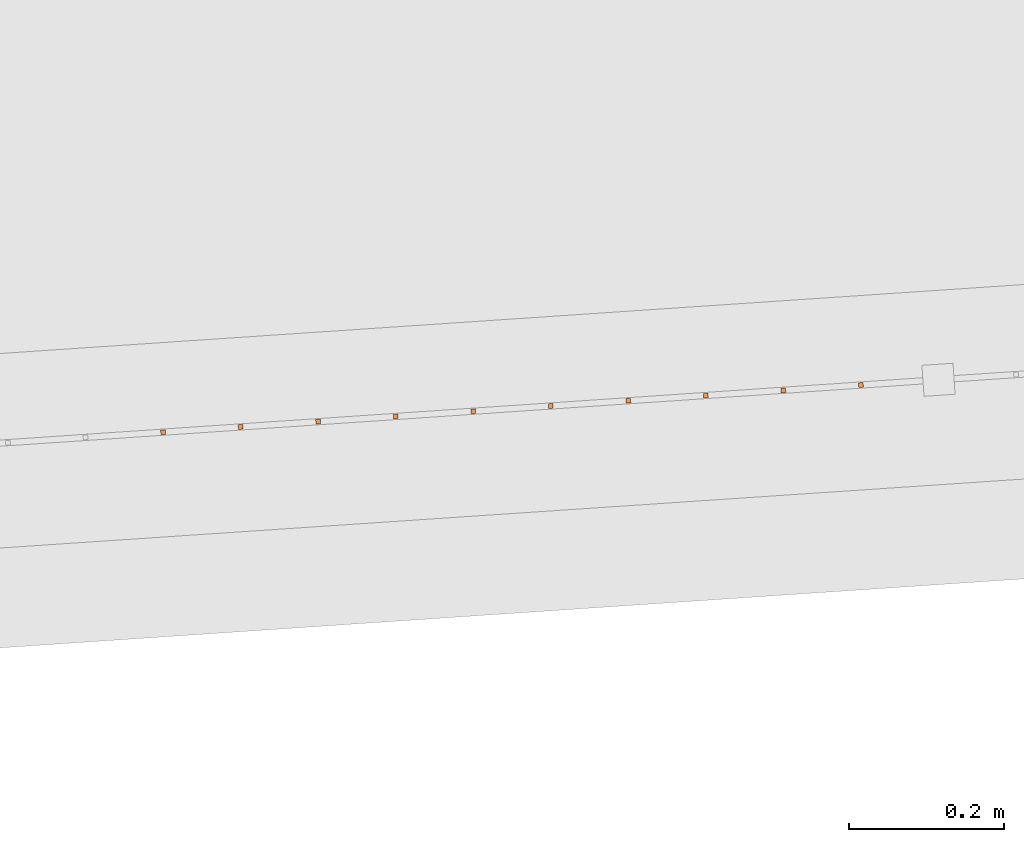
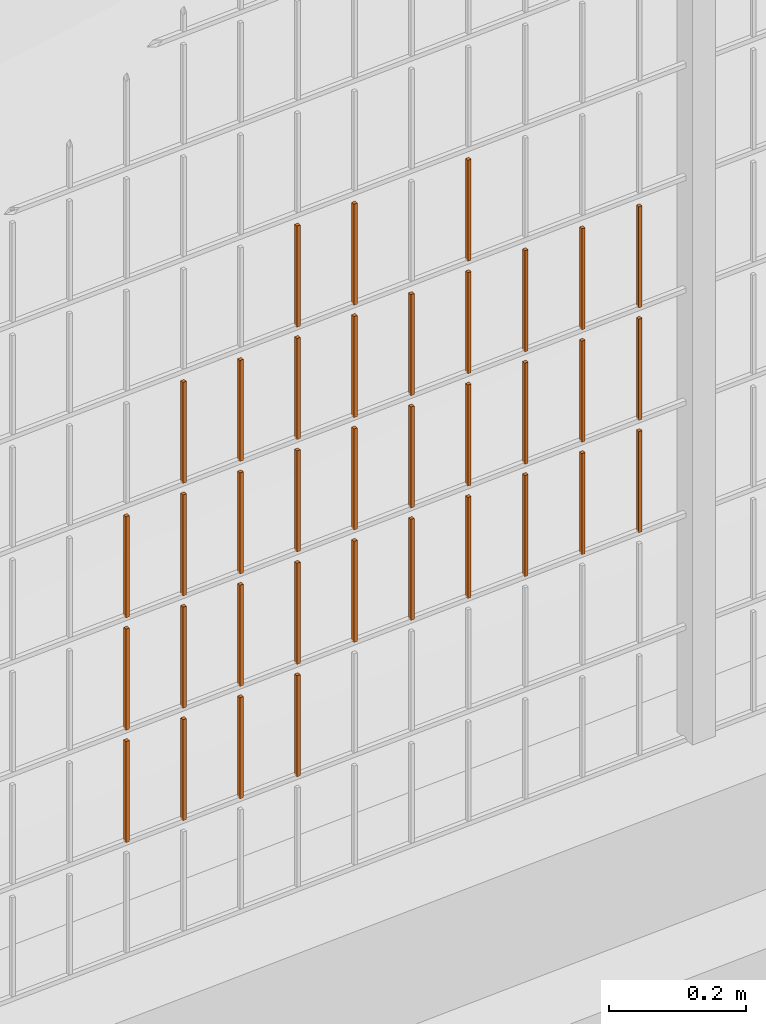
# One storey, part 109 of 1809: 36 proxies, 1 element without a shape of its own.
"""IFC2X3 building model written with IfcOpenShell, lengths in millimetres."""

from ifc_helpers import new_model, entity, si_unit, converted_unit, derived_unit, money_unit, direction, frame, origin_with_axes, place, context, subcontext, project, spatial, faceted_brep, source, transform, mapped, material, type_object, element, aggregate, save


model = new_model("IFC2X3")

# Units and contexts
model_context = context("Model", 3, precision=0.01, world=origin_with_axes(), true_north=direction((0.0, 1.0)))
body_context = subcontext(model_context, "Body", "Model", "MODEL_VIEW")
ifc_project = project(units=[si_unit("LENGTHUNIT", "METRE", prefix="MILLI"), si_unit("AREAUNIT", "SQUARE_METRE"), si_unit("VOLUMEUNIT", "CUBIC_METRE"), converted_unit("PLANEANGLEUNIT", "DEGREE", entity("IfcPlaneAngleMeasure", 0.0174532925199), si_unit("PLANEANGLEUNIT", "RADIAN"), dimensions=[0, 0, 0, 0, 0, 0, 0]), si_unit("SOLIDANGLEUNIT", "STERADIAN"), money_unit("EUR"), converted_unit("TIMEUNIT", "Year", entity("IfcTimeMeasure", 31556926.0), si_unit("TIMEUNIT", "SECOND"), dimensions=[0, 0, 1, 0, 0, 0, 0]), si_unit("MASSUNIT", "GRAM", prefix="KILO"), si_unit("THERMODYNAMICTEMPERATUREUNIT", "DEGREE_CELSIUS"), si_unit("LUMINOUSINTENSITYUNIT", "LUMEN"), si_unit("ENERGYUNIT", "JOULE", prefix="MEGA"), derived_unit("THERMALCONDUCTANCEUNIT", [(si_unit("POWERUNIT", "WATT"), 1), (si_unit("LENGTHUNIT", "METRE"), -1), (si_unit("THERMODYNAMICTEMPERATUREUNIT", "KELVIN"), -1)]), derived_unit("SPECIFICHEATCAPACITYUNIT", [(si_unit("ENERGYUNIT", "JOULE"), 1), (si_unit("MASSUNIT", "GRAM", prefix="KILO"), -1), (si_unit("THERMODYNAMICTEMPERATUREUNIT", "KELVIN"), -1)]), derived_unit("MASSDENSITYUNIT", [(si_unit("MASSUNIT", "GRAM", prefix="KILO"), 1), (si_unit("VOLUMEUNIT", "CUBIC_METRE"), -1)])], contexts=[model_context])

# Site, building, storey
site_placement = place(None, origin_with_axes())
site = spatial("IfcSite", under=ifc_project, at=site_placement, Name="Politse- ja Piirivalveameti ning Päästeameti ühishoone", CompositionType="ELEMENT")
building_placement = place(site_placement, origin_with_axes())
building = spatial("IfcBuilding", under=site, at=building_placement, Name="Politse- ja Piirivalveameti ning Päästeameti ühishoone", CompositionType="ELEMENT")
storey_placement = place(building_placement, origin_with_axes())
storey = spatial("IfcBuildingStorey", under=building, at=storey_placement, Name="Esimene korrus", CompositionType="ELEMENT", Elevation=0.0)

# Proxies
building_element_proxy_type_1 = type_object("IfcBuildingElementProxyType", Name="Railing Type", PredefinedType="NOTDEFINED")
proxy_1_placement = place(storey_placement, frame((89252.001212, -29183.4766571, 203.661247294), z_axis=(0.0, 0.0, 1.0), x_axis=(1.0, 0.0, 0.0)))
proxy_1 = element("IfcBuildingElementProxy", 1, at=proxy_1_placement, inside=storey, type_object=building_element_proxy_type_1, Name="PIIRDEAED")
ifc_material = material(Name="ET-03_Raud")
building_element_proxy_type_2 = type_object("IfcBuildingElementProxyType", Name="IfcBuildingElementProxy", PredefinedType="NOTDEFINED")
shared_shape_1 = source(origin_with_axes(), body_context, "Body", "Brep", [
    faceted_brep([(3.0, 3.0, -0.000752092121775), (-3.0, 3.0, -0.000752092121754), (-3.0, 3.0, 179.99926046), (3.0, 3.0, 179.99926046), (3.0, -3.0, 0.000752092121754), (-3.0, -3.0, 0.000752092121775), (-3.0, -3.0, 180.000764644), (3.0, -3.0, 180.000764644)], [[[0, 1, 2, 3]], [[0, 4, 5, 1]], [[1, 5, 6, 2]], [[3, 2, 6, 7]], [[4, 0, 3, 7]], [[5, 4, 7, 6]]]),
])
proxy_2_placement = place(proxy_1_placement, frame((-92815.1946069, -23567.0908854, 603.912839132), z_axis=(0.0, 0.0, 1.0), x_axis=(1.0, 0.0, 0.0)))
proxy_2 = element("IfcBuildingElementProxy", 2, at=proxy_2_placement, type_object=building_element_proxy_type_2, material=ifc_material, Name="BALUSTER - 001", context=body_context, shape_type="MappedRepresentation", body=[
    mapped(shared_shape_1, transform((0.0, 0.0, 0.0), x_axis=(-0.0673926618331, 0.997726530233, 0.0), y_axis=(-0.997726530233, -0.0673926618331, 0.0), z_axis=(0.0, 0.0, 1.0))),
])
shared_shape_2 = source(origin_with_axes(), body_context, "Body", "Brep", [
    faceted_brep([(3.0, 3.0, -0.000752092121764), (-3.0, 3.0, -0.000752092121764), (-3.0, 3.0, 179.99926046), (3.0, 3.0, 179.99926046), (3.0, -3.0, 0.000752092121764), (-3.0, -3.0, 0.000752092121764), (-3.0, -3.0, 180.000764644), (3.0, -3.0, 180.000764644)], [[[0, 1, 2, 3]], [[0, 4, 5, 1]], [[1, 5, 6, 2]], [[3, 2, 6, 7]], [[4, 0, 3, 7]], [[5, 4, 7, 6]]]),
])
proxy_3_placement = place(proxy_1_placement, frame((-93014.7399129, -23580.5694178, 403.862699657), z_axis=(0.0, 0.0, 1.0), x_axis=(1.0, 0.0, 0.0)))
proxy_3 = element("IfcBuildingElementProxy", 3, at=proxy_3_placement, type_object=building_element_proxy_type_2, material=ifc_material, Name="BALUSTER - 001", context=body_context, shape_type="MappedRepresentation", body=[
    mapped(shared_shape_2, transform((0.0, 0.0, 0.0), x_axis=(-0.0673926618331, 0.997726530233, 0.0), y_axis=(-0.997726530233, -0.0673926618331, 0.0), z_axis=(0.0, 0.0, 1.0))),
])
proxy_4_placement = place(proxy_1_placement, frame((-93014.7399129, -23580.5694178, 603.862699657), z_axis=(0.0, 0.0, 1.0), x_axis=(1.0, 0.0, 0.0)))
proxy_4 = element("IfcBuildingElementProxy", 4, at=proxy_4_placement, type_object=building_element_proxy_type_2, material=ifc_material, Name="BALUSTER - 001", context=body_context, shape_type="MappedRepresentation", body=[
    mapped(shared_shape_2, transform((0.0, 0.0, 0.0), x_axis=(-0.0673926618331, 0.997726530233, 0.0), y_axis=(-0.997726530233, -0.0673926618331, 0.0), z_axis=(0.0, 0.0, 1.0))),
])
shared_shape_3 = source(origin_with_axes(), body_context, "Body", "Brep", [
    faceted_brep([(3.0, 3.0, -0.000752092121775), (-3.0, 3.0, -0.000752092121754), (-3.0, 3.0, 179.99926046), (3.0, 3.0, 179.99926046), (3.0, -3.0, 0.000752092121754), (-3.0, -3.0, 0.000752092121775), (-3.0, -3.0, 180.000764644), (3.0, -3.0, 180.000764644)], [[[0, 1, 2, 3]], [[0, 4, 5, 1]], [[1, 5, 6, 2]], [[3, 2, 6, 7]], [[4, 0, 3, 7]], [[5, 4, 7, 6]]]),
])
proxy_5_placement = place(proxy_1_placement, frame((-92815.1946069, -23567.0908854, 403.912839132), z_axis=(0.0, 0.0, 1.0), x_axis=(1.0, 0.0, 0.0)))
proxy_5 = element("IfcBuildingElementProxy", 5, at=proxy_5_placement, type_object=building_element_proxy_type_2, material=ifc_material, Name="BALUSTER - 001", context=body_context, shape_type="MappedRepresentation", body=[
    mapped(shared_shape_3, transform((0.0, 0.0, 0.0), x_axis=(-0.0673926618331, 0.997726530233, 0.0), y_axis=(-0.997726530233, -0.0673926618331, 0.0), z_axis=(0.0, 0.0, 1.0))),
])
shared_shape_4 = source(origin_with_axes(), body_context, "Body", "Brep", [
    faceted_brep([(3.0, 3.0, -0.000752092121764), (-3.0, 3.0, -0.000752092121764), (-3.0, 3.0, 179.99926046), (3.0, 3.0, 179.99926046), (3.0, -3.0, 0.000752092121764), (-3.0, -3.0, 0.000752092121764), (-3.0, -3.0, 180.000764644), (3.0, -3.0, 180.000764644)], [[[0, 1, 2, 3]], [[0, 4, 5, 1]], [[1, 5, 6, 2]], [[3, 2, 6, 7]], [[4, 0, 3, 7]], [[5, 4, 7, 6]]]),
])
proxy_6_placement = place(proxy_1_placement, frame((-93014.7399129, -23580.5694178, 203.862699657), z_axis=(0.0, 0.0, 1.0), x_axis=(1.0, 0.0, 0.0)))
proxy_6 = element("IfcBuildingElementProxy", 6, at=proxy_6_placement, type_object=building_element_proxy_type_2, material=ifc_material, Name="BALUSTER - 001", context=body_context, shape_type="MappedRepresentation", body=[
    mapped(shared_shape_4, transform((0.0, 0.0, 0.0), x_axis=(-0.0673926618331, 0.997726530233, 0.0), y_axis=(-0.997726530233, -0.0673926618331, 0.0), z_axis=(0.0, 0.0, 1.0))),
])
shared_shape_5 = source(origin_with_axes(), body_context, "Body", "Brep", [
    faceted_brep([(3.0, 3.0, -0.000752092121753), (-3.0, 3.0, -0.000752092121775), (-3.0, 3.0, 179.99926046), (3.0, 3.0, 179.99926046), (3.0, -3.0, 0.000752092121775), (-3.0, -3.0, 0.000752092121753), (-3.0, -3.0, 180.000764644), (3.0, -3.0, 180.000764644)], [[[0, 1, 2, 3]], [[0, 4, 5, 1]], [[1, 5, 6, 2]], [[3, 2, 6, 7]], [[4, 0, 3, 7]], [[5, 4, 7, 6]]]),
])
proxy_7_placement = place(proxy_1_placement, frame((-92715.4219538, -23560.3516192, 603.937908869), z_axis=(0.0, 0.0, 1.0), x_axis=(1.0, 0.0, 0.0)))
proxy_7 = element("IfcBuildingElementProxy", 7, at=proxy_7_placement, type_object=building_element_proxy_type_2, material=ifc_material, Name="BALUSTER - 001", context=body_context, shape_type="MappedRepresentation", body=[
    mapped(shared_shape_5, transform((0.0, 0.0, 0.0), x_axis=(-0.0673926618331, 0.997726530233, 0.0), y_axis=(-0.997726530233, -0.0673926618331, 0.0), z_axis=(0.0, 0.0, 1.0))),
])
proxy_8_placement = place(proxy_1_placement, frame((-92715.4219538, -23560.3516192, 803.937908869), z_axis=(0.0, 0.0, 1.0), x_axis=(1.0, 0.0, 0.0)))
proxy_8 = element("IfcBuildingElementProxy", 8, at=proxy_8_placement, type_object=building_element_proxy_type_2, material=ifc_material, Name="BALUSTER - 001", context=body_context, shape_type="MappedRepresentation", body=[
    mapped(shared_shape_5, transform((0.0, 0.0, 0.0), x_axis=(-0.0673926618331, 0.997726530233, 0.0), y_axis=(-0.997726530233, -0.0673926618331, 0.0), z_axis=(0.0, 0.0, 1.0))),
])
shared_shape_6 = source(origin_with_axes(), body_context, "Body", "Brep", [
    faceted_brep([(3.0, 3.0, -0.000752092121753), (-3.0, 3.0, -0.000752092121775), (-3.0, 3.0, 179.99926046), (3.0, 3.0, 179.99926046), (3.0, -3.0, 0.000752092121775), (-3.0, -3.0, 0.000752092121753), (-3.0, -3.0, 180.000764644), (3.0, -3.0, 180.000764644)], [[[0, 1, 2, 3]], [[0, 4, 5, 1]], [[1, 5, 6, 2]], [[3, 2, 6, 7]], [[4, 0, 3, 7]], [[5, 4, 7, 6]]]),
])
proxy_9_placement = place(proxy_1_placement, frame((-92715.4219538, -23560.3516192, 403.937908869), z_axis=(0.0, 0.0, 1.0), x_axis=(1.0, 0.0, 0.0)))
proxy_9 = element("IfcBuildingElementProxy", 9, at=proxy_9_placement, type_object=building_element_proxy_type_2, material=ifc_material, Name="BALUSTER - 001", context=body_context, shape_type="MappedRepresentation", body=[
    mapped(shared_shape_6, transform((0.0, 0.0, 0.0), x_axis=(-0.0673926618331, 0.997726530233, 0.0), y_axis=(-0.997726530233, -0.0673926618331, 0.0), z_axis=(0.0, 0.0, 1.0))),
])
shared_shape_7 = source(origin_with_axes(), body_context, "Body", "Brep", [
    faceted_brep([(3.0, 3.0, -0.000752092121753), (-3.0, 3.0, -0.000752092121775), (-3.0, 3.0, 179.99926046), (3.0, 3.0, 179.99926046), (3.0, -3.0, 0.000752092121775), (-3.0, -3.0, 0.000752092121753), (-3.0, -3.0, 180.000764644), (3.0, -3.0, 180.000764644)], [[[0, 1, 2, 3]], [[0, 4, 5, 1]], [[1, 5, 6, 2]], [[3, 2, 6, 7]], [[4, 0, 3, 7]], [[5, 4, 7, 6]]]),
])
proxy_10_placement = place(proxy_1_placement, frame((-92615.6493008, -23553.612353, 603.962978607), z_axis=(0.0, 0.0, 1.0), x_axis=(1.0, 0.0, 0.0)))
proxy_10 = element("IfcBuildingElementProxy", 10, at=proxy_10_placement, type_object=building_element_proxy_type_2, material=ifc_material, Name="BALUSTER - 001", context=body_context, shape_type="MappedRepresentation", body=[
    mapped(shared_shape_7, transform((0.0, 0.0, 0.0), x_axis=(-0.0673926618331, 0.997726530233, 0.0), y_axis=(-0.997726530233, -0.0673926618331, 0.0), z_axis=(0.0, 0.0, 1.0))),
])
shared_shape_8 = source(origin_with_axes(), body_context, "Body", "Brep", [
    faceted_brep([(3.0, 3.0, -0.000752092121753), (-3.0, 3.0, -0.000752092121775), (-3.0, 3.0, 179.99926046), (3.0, 3.0, 179.99926046), (3.0, -3.0, 0.000752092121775), (-3.0, -3.0, 0.000752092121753), (-3.0, -3.0, 180.000764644), (3.0, -3.0, 180.000764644)], [[[0, 1, 2, 3]], [[0, 4, 5, 1]], [[1, 5, 6, 2]], [[3, 2, 6, 7]], [[4, 0, 3, 7]], [[5, 4, 7, 6]]]),
])
proxy_11_placement = place(proxy_1_placement, frame((-92615.6493008, -23553.612353, 403.962978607), z_axis=(0.0, 0.0, 1.0), x_axis=(1.0, 0.0, 0.0)))
proxy_11 = element("IfcBuildingElementProxy", 11, at=proxy_11_placement, type_object=building_element_proxy_type_2, material=ifc_material, Name="BALUSTER - 001", context=body_context, shape_type="MappedRepresentation", body=[
    mapped(shared_shape_8, transform((0.0, 0.0, 0.0), x_axis=(-0.0673926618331, 0.997726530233, 0.0), y_axis=(-0.997726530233, -0.0673926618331, 0.0), z_axis=(0.0, 0.0, 1.0))),
])
shared_shape_9 = source(origin_with_axes(), body_context, "Body", "Brep", [
    faceted_brep([(3.0, 3.0, -0.000752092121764), (-3.0, 3.0, -0.000752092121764), (-3.0, 3.0, 179.99926046), (3.0, 3.0, 179.99926046), (3.0, -3.0, 0.000752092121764), (-3.0, -3.0, 0.000752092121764), (-3.0, -3.0, 180.000764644), (3.0, -3.0, 180.000764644)], [[[0, 1, 2, 3]], [[0, 4, 5, 1]], [[1, 5, 6, 2]], [[3, 2, 6, 7]], [[4, 0, 3, 7]], [[5, 4, 7, 6]]]),
])
proxy_12_placement = place(proxy_1_placement, frame((-93014.7399129, -23580.5694178, 803.862699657), z_axis=(0.0, 0.0, 1.0), x_axis=(1.0, 0.0, 0.0)))
proxy_12 = element("IfcBuildingElementProxy", 12, at=proxy_12_placement, type_object=building_element_proxy_type_2, material=ifc_material, Name="BALUSTER - 001", context=body_context, shape_type="MappedRepresentation", body=[
    mapped(shared_shape_9, transform((0.0, 0.0, 0.0), x_axis=(-0.0673926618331, 0.997726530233, 0.0), y_axis=(-0.997726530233, -0.0673926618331, 0.0), z_axis=(0.0, 0.0, 1.0))),
])
shared_shape_10 = source(origin_with_axes(), body_context, "Body", "Brep", [
    faceted_brep([(3.0, 3.0, -0.000752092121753), (-3.0, 3.0, -0.000752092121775), (-3.0, 3.0, 179.99926046), (3.0, 3.0, 179.99926046), (3.0, -3.0, 0.000752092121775), (-3.0, -3.0, 0.000752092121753), (-3.0, -3.0, 180.000764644), (3.0, -3.0, 180.000764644)], [[[0, 1, 2, 3]], [[0, 4, 5, 1]], [[1, 5, 6, 2]], [[3, 2, 6, 7]], [[4, 0, 3, 7]], [[5, 4, 7, 6]]]),
])
proxy_13_placement = place(proxy_1_placement, frame((-92615.6493008, -23553.612353, 803.962978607), z_axis=(0.0, 0.0, 1.0), x_axis=(1.0, 0.0, 0.0)))
proxy_13 = element("IfcBuildingElementProxy", 13, at=proxy_13_placement, type_object=building_element_proxy_type_2, material=ifc_material, Name="BALUSTER - 001", context=body_context, shape_type="MappedRepresentation", body=[
    mapped(shared_shape_10, transform((0.0, 0.0, 0.0), x_axis=(-0.0673926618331, 0.997726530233, 0.0), y_axis=(-0.997726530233, -0.0673926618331, 0.0), z_axis=(0.0, 0.0, 1.0))),
])
shared_shape_11 = source(origin_with_axes(), body_context, "Body", "Brep", [
    faceted_brep([(3.0, 3.0, -0.000752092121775), (-3.0, 3.0, -0.000752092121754), (-3.0, 3.0, 179.99926046), (3.0, 3.0, 179.99926046), (3.0, -3.0, 0.000752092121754), (-3.0, -3.0, 0.000752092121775), (-3.0, -3.0, 180.000764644), (3.0, -3.0, 180.000764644)], [[[0, 1, 2, 3]], [[0, 4, 5, 1]], [[1, 5, 6, 2]], [[3, 2, 6, 7]], [[4, 0, 3, 7]], [[5, 4, 7, 6]]]),
])
proxy_14_placement = place(proxy_1_placement, frame((-92815.1946069, -23567.0908854, 803.912839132), z_axis=(0.0, 0.0, 1.0), x_axis=(1.0, 0.0, 0.0)))
proxy_14 = element("IfcBuildingElementProxy", 14, at=proxy_14_placement, type_object=building_element_proxy_type_2, material=ifc_material, Name="BALUSTER - 001", context=body_context, shape_type="MappedRepresentation", body=[
    mapped(shared_shape_11, transform((0.0, 0.0, 0.0), x_axis=(-0.0673926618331, 0.997726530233, 0.0), y_axis=(-0.997726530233, -0.0673926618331, 0.0), z_axis=(0.0, 0.0, 1.0))),
])
shared_shape_12 = source(origin_with_axes(), body_context, "Body", "Brep", [
    faceted_brep([(3.0, 3.0, -0.000752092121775), (-3.0, 3.0, -0.000752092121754), (-3.0, 3.0, 179.99926046), (3.0, 3.0, 179.99926046), (3.0, -3.0, 0.000752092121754), (-3.0, -3.0, 0.000752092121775), (-3.0, -3.0, 180.000764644), (3.0, -3.0, 180.000764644)], [[[0, 1, 2, 3]], [[0, 4, 5, 1]], [[1, 5, 6, 2]], [[3, 2, 6, 7]], [[4, 0, 3, 7]], [[5, 4, 7, 6]]]),
])
proxy_15_placement = place(proxy_1_placement, frame((-92815.1946069, -23567.0908854, 203.912839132), z_axis=(0.0, 0.0, 1.0), x_axis=(1.0, 0.0, 0.0)))
proxy_15 = element("IfcBuildingElementProxy", 15, at=proxy_15_placement, type_object=building_element_proxy_type_2, material=ifc_material, Name="BALUSTER - 001", context=body_context, shape_type="MappedRepresentation", body=[
    mapped(shared_shape_12, transform((0.0, 0.0, 0.0), x_axis=(-0.0673926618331, 0.997726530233, 0.0), y_axis=(-0.997726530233, -0.0673926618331, 0.0), z_axis=(0.0, 0.0, 1.0))),
])
shared_shape_13 = source(origin_with_axes(), body_context, "Body", "Brep", [
    faceted_brep([(3.0, 3.0, -0.000752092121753), (-3.0, 3.0, -0.000752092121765), (-3.00000000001, 3.0, 179.99926046), (2.99999999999, 3.0, 179.99926046), (3.0, -3.0, 0.000752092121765), (-3.0, -3.0, 0.000752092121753), (-3.00000000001, -3.0, 180.000764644), (2.99999999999, -3.0, 180.000764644)], [[[0, 1, 2, 3]], [[0, 4, 5, 1]], [[1, 5, 6, 2]], [[3, 2, 6, 7]], [[4, 0, 3, 7]], [[5, 4, 7, 6]]]),
])
proxy_16_placement = place(proxy_1_placement, frame((-92715.4219538, -23560.3516192, 1003.93790887), z_axis=(0.0, 0.0, 1.0), x_axis=(1.0, 0.0, 0.0)))
proxy_16 = element("IfcBuildingElementProxy", 16, at=proxy_16_placement, type_object=building_element_proxy_type_2, material=ifc_material, Name="BALUSTER - 001", context=body_context, shape_type="MappedRepresentation", body=[
    mapped(shared_shape_13, transform((0.0, 0.0, 0.0), x_axis=(-0.0673926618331, 0.997726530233, 0.0), y_axis=(-0.997726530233, -0.0673926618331, 0.0), z_axis=(0.0, 0.0, 1.0))),
])
shared_shape_14 = source(origin_with_axes(), body_context, "Body", "Brep", [
    faceted_brep([(3.0, 3.0, -0.000752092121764), (-3.0, 3.0, -0.000752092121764), (-3.0, 3.0, 179.99926046), (3.0, 3.0, 179.99926046), (3.0, -3.0, 0.000752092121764), (-3.0, -3.0, 0.000752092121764), (-3.0, -3.0, 180.000764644), (3.0, -3.0, 180.000764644)], [[[0, 1, 2, 3]], [[0, 4, 5, 1]], [[1, 5, 6, 2]], [[3, 2, 6, 7]], [[4, 0, 3, 7]], [[5, 4, 7, 6]]]),
])
proxy_17_placement = place(proxy_1_placement, frame((-92515.8766478, -23546.8730868, 403.988048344), z_axis=(0.0, 0.0, 1.0), x_axis=(1.0, 0.0, 0.0)))
proxy_17 = element("IfcBuildingElementProxy", 17, at=proxy_17_placement, type_object=building_element_proxy_type_2, material=ifc_material, Name="BALUSTER - 001", context=body_context, shape_type="MappedRepresentation", body=[
    mapped(shared_shape_14, transform((0.0, 0.0, 0.0), x_axis=(-0.0673926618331, 0.997726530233, 0.0), y_axis=(-0.997726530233, -0.0673926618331, 0.0), z_axis=(0.0, 0.0, 1.0))),
])
shared_shape_15 = source(origin_with_axes(), body_context, "Body", "Brep", [
    faceted_brep([(3.0, 3.0, -0.000752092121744), (-3.0, 3.0, -0.000752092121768), (-3.00000000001, 3.0, 179.99926046), (2.99999999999, 3.0, 179.99926046), (3.0, -3.0, 0.000752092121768), (-3.0, -3.0, 0.000752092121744), (-3.00000000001, -3.0, 180.000764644), (2.99999999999, -3.0, 180.000764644)], [[[0, 1, 2, 3]], [[0, 4, 5, 1]], [[1, 5, 6, 2]], [[3, 2, 6, 7]], [[4, 0, 3, 7]], [[5, 4, 7, 6]]]),
])
proxy_18_placement = place(proxy_1_placement, frame((-92515.8766478, -23546.8730868, 1003.98804834), z_axis=(0.0, 0.0, 1.0), x_axis=(1.0, 0.0, 0.0)))
proxy_18 = element("IfcBuildingElementProxy", 18, at=proxy_18_placement, type_object=building_element_proxy_type_2, material=ifc_material, Name="BALUSTER - 001", context=body_context, shape_type="MappedRepresentation", body=[
    mapped(shared_shape_15, transform((0.0, 0.0, 0.0), x_axis=(-0.0673926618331, 0.997726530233, 0.0), y_axis=(-0.997726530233, -0.0673926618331, 0.0), z_axis=(0.0, 0.0, 1.0))),
])
shared_shape_16 = source(origin_with_axes(), body_context, "Body", "Brep", [
    faceted_brep([(3.0, 3.0, -0.000752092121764), (-3.0, 3.0, -0.000752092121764), (-3.0, 3.0, 179.99926046), (3.0, 3.0, 179.99926046), (3.0, -3.0, 0.000752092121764), (-3.0, -3.0, 0.000752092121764), (-3.0, -3.0, 180.000764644), (3.0, -3.0, 180.000764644)], [[[0, 1, 2, 3]], [[0, 4, 5, 1]], [[1, 5, 6, 2]], [[3, 2, 6, 7]], [[4, 0, 3, 7]], [[5, 4, 7, 6]]]),
])
proxy_19_placement = place(proxy_1_placement, frame((-92515.8766478, -23546.8730868, 603.988048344), z_axis=(0.0, 0.0, 1.0), x_axis=(1.0, 0.0, 0.0)))
proxy_19 = element("IfcBuildingElementProxy", 19, at=proxy_19_placement, type_object=building_element_proxy_type_2, material=ifc_material, Name="BALUSTER - 001", context=body_context, shape_type="MappedRepresentation", body=[
    mapped(shared_shape_16, transform((0.0, 0.0, 0.0), x_axis=(-0.0673926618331, 0.997726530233, 0.0), y_axis=(-0.997726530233, -0.0673926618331, 0.0), z_axis=(0.0, 0.0, 1.0))),
])
shared_shape_17 = source(origin_with_axes(), body_context, "Body", "Brep", [
    faceted_brep([(3.0, 3.0, -0.000752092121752), (-3.0, 3.0, -0.000752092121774), (-3.0, 3.0, 179.99926046), (3.0, 3.0, 179.99926046), (3.0, -3.0, 0.000752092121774), (-3.0, -3.0, 0.000752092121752), (-3.0, -3.0, 180.000764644), (3.0, -3.0, 180.000764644)], [[[0, 1, 2, 3]], [[0, 4, 5, 1]], [[1, 5, 6, 2]], [[3, 2, 6, 7]], [[4, 0, 3, 7]], [[5, 4, 7, 6]]]),
])
proxy_20_placement = place(proxy_1_placement, frame((-92316.3313417, -23533.3945545, 404.038187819), z_axis=(0.0, 0.0, 1.0), x_axis=(1.0, 0.0, 0.0)))
proxy_20 = element("IfcBuildingElementProxy", 20, at=proxy_20_placement, type_object=building_element_proxy_type_2, material=ifc_material, Name="BALUSTER - 001", context=body_context, shape_type="MappedRepresentation", body=[
    mapped(shared_shape_17, transform((0.0, 0.0, 0.0), x_axis=(-0.0673926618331, 0.997726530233, 0.0), y_axis=(-0.997726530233, -0.0673926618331, 0.0), z_axis=(0.0, 0.0, 1.0))),
])
proxy_21_placement = place(proxy_1_placement, frame((-92416.1039948, -23540.1338207, 404.013118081), z_axis=(0.0, 0.0, 1.0), x_axis=(1.0, 0.0, 0.0)))
proxy_21 = element("IfcBuildingElementProxy", 21, at=proxy_21_placement, type_object=building_element_proxy_type_2, material=ifc_material, Name="BALUSTER - 001", context=body_context, shape_type="MappedRepresentation", body=[
    mapped(shared_shape_17, transform((0.0, 0.0, 0.0), x_axis=(-0.0673926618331, 0.997726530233, 0.0), y_axis=(-0.997726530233, -0.0673926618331, 0.0), z_axis=(0.0, 0.0, 1.0))),
])
proxy_22_placement = place(proxy_1_placement, frame((-92316.3313417, -23533.3945545, 604.038187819), z_axis=(0.0, 0.0, 1.0), x_axis=(1.0, 0.0, 0.0)))
proxy_22 = element("IfcBuildingElementProxy", 22, at=proxy_22_placement, type_object=building_element_proxy_type_2, material=ifc_material, Name="BALUSTER - 001", context=body_context, shape_type="MappedRepresentation", body=[
    mapped(shared_shape_17, transform((0.0, 0.0, 0.0), x_axis=(-0.0673926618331, 0.997726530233, 0.0), y_axis=(-0.997726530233, -0.0673926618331, 0.0), z_axis=(0.0, 0.0, 1.0))),
])
proxy_23_placement = place(proxy_1_placement, frame((-92416.1039948, -23540.1338207, 604.013118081), z_axis=(0.0, 0.0, 1.0), x_axis=(1.0, 0.0, 0.0)))
proxy_23 = element("IfcBuildingElementProxy", 23, at=proxy_23_placement, type_object=building_element_proxy_type_2, material=ifc_material, Name="BALUSTER - 001", context=body_context, shape_type="MappedRepresentation", body=[
    mapped(shared_shape_17, transform((0.0, 0.0, 0.0), x_axis=(-0.0673926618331, 0.997726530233, 0.0), y_axis=(-0.997726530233, -0.0673926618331, 0.0), z_axis=(0.0, 0.0, 1.0))),
])
shared_shape_18 = source(origin_with_axes(), body_context, "Body", "Brep", [
    faceted_brep([(3.0, 3.0, -0.000752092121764), (-3.0, 3.0, -0.000752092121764), (-3.0, 3.0, 179.99926046), (3.0, 3.0, 179.99926046), (3.0, -3.0, 0.000752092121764), (-3.0, -3.0, 0.000752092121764), (-3.0, -3.0, 180.000764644), (3.0, -3.0, 180.000764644)], [[[0, 1, 2, 3]], [[0, 4, 5, 1]], [[1, 5, 6, 2]], [[3, 2, 6, 7]], [[4, 0, 3, 7]], [[5, 4, 7, 6]]]),
])
proxy_24_placement = place(proxy_1_placement, frame((-92515.8766478, -23546.8730868, 803.988048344), z_axis=(0.0, 0.0, 1.0), x_axis=(1.0, 0.0, 0.0)))
proxy_24 = element("IfcBuildingElementProxy", 24, at=proxy_24_placement, type_object=building_element_proxy_type_2, material=ifc_material, Name="BALUSTER - 001", context=body_context, shape_type="MappedRepresentation", body=[
    mapped(shared_shape_18, transform((0.0, 0.0, 0.0), x_axis=(-0.0673926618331, 0.997726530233, 0.0), y_axis=(-0.997726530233, -0.0673926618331, 0.0), z_axis=(0.0, 0.0, 1.0))),
])
shared_shape_19 = source(origin_with_axes(), body_context, "Body", "Brep", [
    faceted_brep([(3.0, 3.0, -0.000752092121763), (-3.0, 3.0, -0.000752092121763), (-3.0, 3.0, 179.99926046), (3.0, 3.0, 179.99926046), (3.0, -3.0, 0.000752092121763), (-3.0, -3.0, 0.000752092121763), (-3.0, -3.0, 180.000764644), (3.0, -3.0, 180.000764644)], [[[0, 1, 2, 3]], [[0, 4, 5, 1]], [[1, 5, 6, 2]], [[3, 2, 6, 7]], [[4, 0, 3, 7]], [[5, 4, 7, 6]]]),
])
proxy_25_placement = place(proxy_1_placement, frame((-92914.9672599, -23573.8301516, 803.887769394), z_axis=(0.0, 0.0, 1.0), x_axis=(1.0, 0.0, 0.0)))
proxy_25 = element("IfcBuildingElementProxy", 25, at=proxy_25_placement, type_object=building_element_proxy_type_2, material=ifc_material, Name="BALUSTER - 001", context=body_context, shape_type="MappedRepresentation", body=[
    mapped(shared_shape_19, transform((0.0, 0.0, 0.0), x_axis=(-0.0673926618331, 0.997726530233, 0.0), y_axis=(-0.997726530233, -0.0673926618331, 0.0), z_axis=(0.0, 0.0, 1.0))),
])
shared_shape_20 = source(origin_with_axes(), body_context, "Body", "Brep", [
    faceted_brep([(3.0, 3.0, -0.000752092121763), (-3.0, 3.0, -0.000752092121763), (-3.0, 3.0, 179.99926046), (3.0, 3.0, 179.99926046), (3.0, -3.0, 0.000752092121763), (-3.0, -3.0, 0.000752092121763), (-3.0, -3.0, 180.000764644), (3.0, -3.0, 180.000764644)], [[[0, 1, 2, 3]], [[0, 4, 5, 1]], [[1, 5, 6, 2]], [[3, 2, 6, 7]], [[4, 0, 3, 7]], [[5, 4, 7, 6]]]),
])
proxy_26_placement = place(proxy_1_placement, frame((-92216.5586887, -23526.6552883, 804.063257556), z_axis=(0.0, 0.0, 1.0), x_axis=(1.0, 0.0, 0.0)))
proxy_26 = element("IfcBuildingElementProxy", 26, at=proxy_26_placement, type_object=building_element_proxy_type_2, material=ifc_material, Name="BALUSTER - 001", context=body_context, shape_type="MappedRepresentation", body=[
    mapped(shared_shape_20, transform((0.0, 0.0, 0.0), x_axis=(-0.0673926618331, 0.997726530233, 0.0), y_axis=(-0.997726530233, -0.0673926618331, 0.0), z_axis=(0.0, 0.0, 1.0))),
])
shared_shape_21 = source(origin_with_axes(), body_context, "Body", "Brep", [
    faceted_brep([(3.0, 3.0, -0.000752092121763), (-3.0, 3.0, -0.000752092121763), (-3.0, 3.0, 179.99926046), (3.0, 3.0, 179.99926046), (3.0, -3.0, 0.000752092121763), (-3.0, -3.0, 0.000752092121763), (-3.0, -3.0, 180.000764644), (3.0, -3.0, 180.000764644)], [[[0, 1, 2, 3]], [[0, 4, 5, 1]], [[1, 5, 6, 2]], [[3, 2, 6, 7]], [[4, 0, 3, 7]], [[5, 4, 7, 6]]]),
])
proxy_27_placement = place(proxy_1_placement, frame((-92914.9672599, -23573.8301516, 203.887769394), z_axis=(0.0, 0.0, 1.0), x_axis=(1.0, 0.0, 0.0)))
proxy_27 = element("IfcBuildingElementProxy", 27, at=proxy_27_placement, type_object=building_element_proxy_type_2, material=ifc_material, Name="BALUSTER - 001", context=body_context, shape_type="MappedRepresentation", body=[
    mapped(shared_shape_21, transform((0.0, 0.0, 0.0), x_axis=(-0.0673926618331, 0.997726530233, 0.0), y_axis=(-0.997726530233, -0.0673926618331, 0.0), z_axis=(0.0, 0.0, 1.0))),
])
proxy_28_placement = place(proxy_1_placement, frame((-93114.5125659, -23587.3086839, 203.83762992), z_axis=(0.0, 0.0, 1.0), x_axis=(1.0, 0.0, 0.0)))
proxy_28 = element("IfcBuildingElementProxy", 28, at=proxy_28_placement, type_object=building_element_proxy_type_2, material=ifc_material, Name="BALUSTER - 001", context=body_context, shape_type="MappedRepresentation", body=[
    mapped(shared_shape_21, transform((0.0, 0.0, 0.0), x_axis=(-0.0673926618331, 0.997726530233, 0.0), y_axis=(-0.997726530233, -0.0673926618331, 0.0), z_axis=(0.0, 0.0, 1.0))),
])
proxy_29_placement = place(proxy_1_placement, frame((-92216.5586887, -23526.6552883, 404.063257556), z_axis=(0.0, 0.0, 1.0), x_axis=(1.0, 0.0, 0.0)))
proxy_29 = element("IfcBuildingElementProxy", 29, at=proxy_29_placement, type_object=building_element_proxy_type_2, material=ifc_material, Name="BALUSTER - 001", context=body_context, shape_type="MappedRepresentation", body=[
    mapped(shared_shape_21, transform((0.0, 0.0, 0.0), x_axis=(-0.0673926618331, 0.997726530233, 0.0), y_axis=(-0.997726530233, -0.0673926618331, 0.0), z_axis=(0.0, 0.0, 1.0))),
])
proxy_30_placement = place(proxy_1_placement, frame((-92914.9672599, -23573.8301516, 403.887769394), z_axis=(0.0, 0.0, 1.0), x_axis=(1.0, 0.0, 0.0)))
proxy_30 = element("IfcBuildingElementProxy", 30, at=proxy_30_placement, type_object=building_element_proxy_type_2, material=ifc_material, Name="BALUSTER - 001", context=body_context, shape_type="MappedRepresentation", body=[
    mapped(shared_shape_21, transform((0.0, 0.0, 0.0), x_axis=(-0.0673926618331, 0.997726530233, 0.0), y_axis=(-0.997726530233, -0.0673926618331, 0.0), z_axis=(0.0, 0.0, 1.0))),
])
proxy_31_placement = place(proxy_1_placement, frame((-93114.5125659, -23587.3086839, 403.83762992), z_axis=(0.0, 0.0, 1.0), x_axis=(1.0, 0.0, 0.0)))
proxy_31 = element("IfcBuildingElementProxy", 31, at=proxy_31_placement, type_object=building_element_proxy_type_2, material=ifc_material, Name="BALUSTER - 001", context=body_context, shape_type="MappedRepresentation", body=[
    mapped(shared_shape_21, transform((0.0, 0.0, 0.0), x_axis=(-0.0673926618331, 0.997726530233, 0.0), y_axis=(-0.997726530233, -0.0673926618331, 0.0), z_axis=(0.0, 0.0, 1.0))),
])
proxy_32_placement = place(proxy_1_placement, frame((-93114.5125659, -23587.3086839, 603.83762992), z_axis=(0.0, 0.0, 1.0), x_axis=(1.0, 0.0, 0.0)))
proxy_32 = element("IfcBuildingElementProxy", 32, at=proxy_32_placement, type_object=building_element_proxy_type_2, material=ifc_material, Name="BALUSTER - 001", context=body_context, shape_type="MappedRepresentation", body=[
    mapped(shared_shape_21, transform((0.0, 0.0, 0.0), x_axis=(-0.0673926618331, 0.997726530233, 0.0), y_axis=(-0.997726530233, -0.0673926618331, 0.0), z_axis=(0.0, 0.0, 1.0))),
])
shared_shape_22 = source(origin_with_axes(), body_context, "Body", "Brep", [
    faceted_brep([(3.0, 3.0, -0.000752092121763), (-3.0, 3.0, -0.000752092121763), (-3.0, 3.0, 179.99926046), (3.0, 3.0, 179.99926046), (3.0, -3.0, 0.000752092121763), (-3.0, -3.0, 0.000752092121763), (-3.0, -3.0, 180.000764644), (3.0, -3.0, 180.000764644)], [[[0, 1, 2, 3]], [[0, 4, 5, 1]], [[1, 5, 6, 2]], [[3, 2, 6, 7]], [[4, 0, 3, 7]], [[5, 4, 7, 6]]]),
])
proxy_33_placement = place(proxy_1_placement, frame((-92216.5586887, -23526.6552883, 604.063257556), z_axis=(0.0, 0.0, 1.0), x_axis=(1.0, 0.0, 0.0)))
proxy_33 = element("IfcBuildingElementProxy", 33, at=proxy_33_placement, type_object=building_element_proxy_type_2, material=ifc_material, Name="BALUSTER - 001", context=body_context, shape_type="MappedRepresentation", body=[
    mapped(shared_shape_22, transform((0.0, 0.0, 0.0), x_axis=(-0.0673926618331, 0.997726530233, 0.0), y_axis=(-0.997726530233, -0.0673926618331, 0.0), z_axis=(0.0, 0.0, 1.0))),
])
proxy_34_placement = place(proxy_1_placement, frame((-92914.9672599, -23573.8301516, 603.887769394), z_axis=(0.0, 0.0, 1.0), x_axis=(1.0, 0.0, 0.0)))
proxy_34 = element("IfcBuildingElementProxy", 34, at=proxy_34_placement, type_object=building_element_proxy_type_2, material=ifc_material, Name="BALUSTER - 001", context=body_context, shape_type="MappedRepresentation", body=[
    mapped(shared_shape_22, transform((0.0, 0.0, 0.0), x_axis=(-0.0673926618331, 0.997726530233, 0.0), y_axis=(-0.997726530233, -0.0673926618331, 0.0), z_axis=(0.0, 0.0, 1.0))),
])
shared_shape_23 = source(origin_with_axes(), body_context, "Body", "Brep", [
    faceted_brep([(3.0, 3.0, -0.000752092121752), (-3.0, 3.0, -0.000752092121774), (-3.0, 3.0, 179.99926046), (3.0, 3.0, 179.99926046), (3.0, -3.0, 0.000752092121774), (-3.0, -3.0, 0.000752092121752), (-3.0, -3.0, 180.000764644), (3.0, -3.0, 180.000764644)], [[[0, 1, 2, 3]], [[0, 4, 5, 1]], [[1, 5, 6, 2]], [[3, 2, 6, 7]], [[4, 0, 3, 7]], [[5, 4, 7, 6]]]),
])
proxy_35_placement = place(proxy_1_placement, frame((-92316.3313417, -23533.3945545, 804.038187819), z_axis=(0.0, 0.0, 1.0), x_axis=(1.0, 0.0, 0.0)))
proxy_35 = element("IfcBuildingElementProxy", 35, at=proxy_35_placement, type_object=building_element_proxy_type_2, material=ifc_material, Name="BALUSTER - 001", context=body_context, shape_type="MappedRepresentation", body=[
    mapped(shared_shape_23, transform((0.0, 0.0, 0.0), x_axis=(-0.0673926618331, 0.997726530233, 0.0), y_axis=(-0.997726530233, -0.0673926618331, 0.0), z_axis=(0.0, 0.0, 1.0))),
])
proxy_36_placement = place(proxy_1_placement, frame((-92416.1039948, -23540.1338207, 804.013118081), z_axis=(0.0, 0.0, 1.0), x_axis=(1.0, 0.0, 0.0)))
proxy_36 = element("IfcBuildingElementProxy", 36, at=proxy_36_placement, type_object=building_element_proxy_type_2, material=ifc_material, Name="BALUSTER - 001", context=body_context, shape_type="MappedRepresentation", body=[
    mapped(shared_shape_23, transform((0.0, 0.0, 0.0), x_axis=(-0.0673926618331, 0.997726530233, 0.0), y_axis=(-0.997726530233, -0.0673926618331, 0.0), z_axis=(0.0, 0.0, 1.0))),
])
shared_shape_24 = source(origin_with_axes(), body_context, "Body", "Brep", [
    faceted_brep([(3.0, 3.0, -0.000752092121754), (-3.0, 3.0, -0.000752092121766), (-3.00000000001, 3.00000000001, 179.99926046), (2.99999999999, 3.00000000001, 179.99926046), (3.0, -3.0, 0.000752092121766), (-3.0, -3.0, 0.000752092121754), (-3.00000000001, -2.99999999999, 180.000764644), (2.99999999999, -2.99999999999, 180.000764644)], [[[0, 1, 2, 3]], [[0, 4, 5, 1]], [[1, 5, 6, 2]], [[3, 2, 6, 7]], [[4, 0, 3, 7]], [[5, 4, 7, 6]]]),
])
proxy_37_placement = place(proxy_1_placement, frame((-92815.1946069, -23567.0908854, 1003.91283913), z_axis=(0.0, 0.0, 1.0), x_axis=(1.0, 0.0, 0.0)))
proxy_37 = element("IfcBuildingElementProxy", 37, at=proxy_37_placement, type_object=building_element_proxy_type_2, material=ifc_material, Name="BALUSTER - 001", context=body_context, shape_type="MappedRepresentation", body=[
    mapped(shared_shape_24, transform((0.0, 0.0, 0.0), x_axis=(-0.0673926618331, 0.997726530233, 0.0), y_axis=(-0.997726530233, -0.0673926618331, 0.0), z_axis=(0.0, 0.0, 1.0))),
])
aggregate(proxy_1, [proxy_15, proxy_27, proxy_6, proxy_28, proxy_29, proxy_20, proxy_21, proxy_17, proxy_11, proxy_9, proxy_5, proxy_30, proxy_3, proxy_31, proxy_33, proxy_22, proxy_23, proxy_19, proxy_10, proxy_7, proxy_2, proxy_34, proxy_4, proxy_32, proxy_26, proxy_35, proxy_36, proxy_24, proxy_13, proxy_8, proxy_14, proxy_25, proxy_12, proxy_18, proxy_16, proxy_37])

save(model, "model.ifc")
